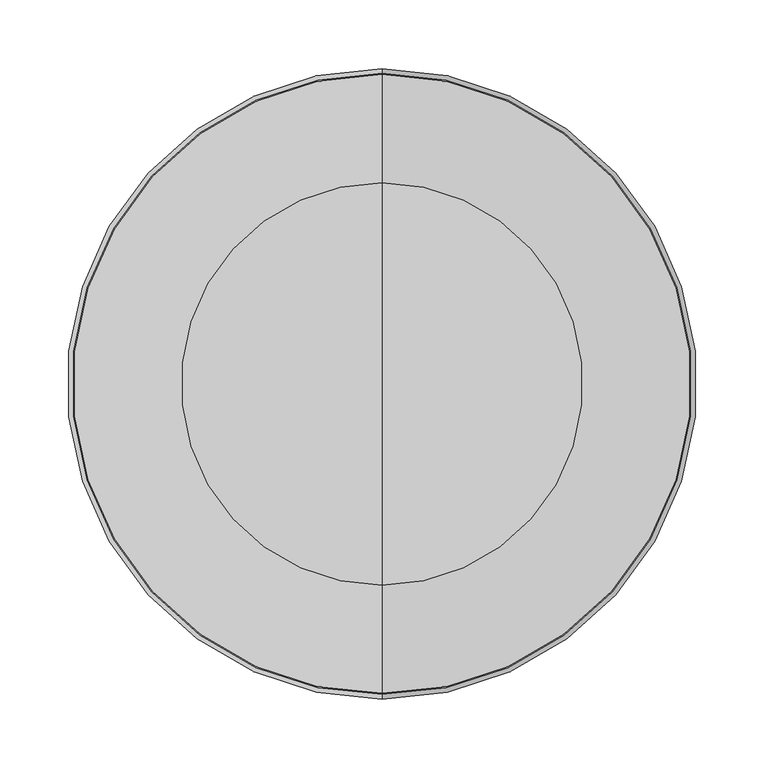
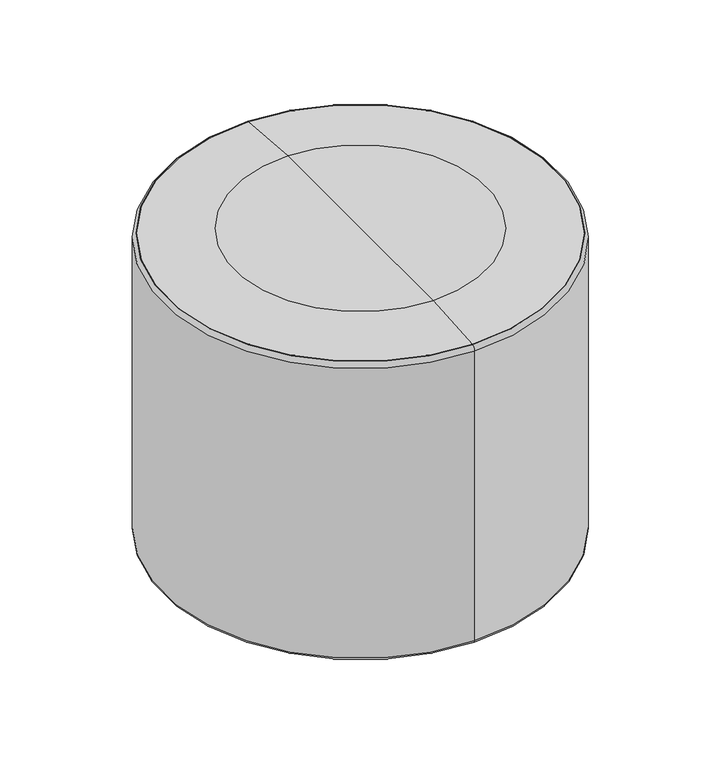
"""IFC4 building model written with IfcOpenShell, lengths in millimetres: furniture geometry, Indiana-Otty-Ottoman_Round : 840-1815RO."""

from ifc_helpers import new_model, si_unit, point, frame, origin, place, context, project, spatial, polyline, circle_curve, ellipse_curve, trimmed, source, transform, mapped, element, save
from ifc_brep_helpers import plane_surface, cylinder_surface, revolved_surface, advanced_brep


def furniture_a3c5e237(model_context):
    return source(origin(), model_context, "Body", "AdvancedBrep", [
        advanced_brep(
        [(126.4514457, -129.4834071, 19.8875), (126.4514457, -106.9834071, 19.8875), (126.4514457, -151.9834071, 19.8875), (126.4514457, -107.4318989, 4.2458827), (126.4514457, -151.5349153, 4.2458827), (126.4514457, -111.9170406, -0.1125), (126.4514457, -147.0497736, -0.1125), (126.4514457, -119.2157893, -0.1125), (126.4514457, -139.7510249, -0.1125), (126.4514457, -123.1102654, 3.9179615), (126.4514457, -135.8565488, 3.9179615), (126.4514457, -129.4834071, 3.9179615)],
        [
            (0, 1),
            (1, 2, circle_curve(frame((126.4514457, -129.4834071, 19.8875), z_axis=(0.0, 0.0, 1.0), x_axis=(0.0, 1.0, 0.0)), 22.5)),
            (2, 0),
            (2, 1, circle_curve(frame((126.4514457, -129.4834071, 19.8875), z_axis=(0.0, 0.0, 1.0), x_axis=(0.0, 1.0, 0.0)), 22.5)),
            (1, 3),
            (3, 4, circle_curve(frame((126.4514457, -129.4834071, 4.2458827), z_axis=(0.0, 0.0, 1.0), x_axis=(0.0, 1.0, 0.0)), 22.0515082)),
            (4, 2),
            (4, 3, circle_curve(frame((126.4514457, -129.4834071, 4.2458827), z_axis=(0.0, 0.0, 1.0), x_axis=(0.0, 1.0, 0.0)), 22.0515082)),
            (3, 5, circle_curve(frame((126.4514457, -111.9170406, 4.3744851), z_axis=(-1.0, 0.0, 0.0), x_axis=(0.0, -1.0, 0.0)), 4.4869851)),
            (5, 6, circle_curve(frame((126.4514457, -129.4834071, -0.1125), z_axis=(0.0, 0.0, 1.0), x_axis=(0.0, 1.0, 0.0)), 17.5663665)),
            (6, 4, circle_curve(frame((126.4514457, -147.0497736, 4.3744851), z_axis=(-1.0, 0.0, 0.0), x_axis=(0.0, 1.0, 0.0)), 4.4869851)),
            (6, 5, circle_curve(frame((126.4514457, -129.4834071, -0.1125), z_axis=(0.0, 0.0, 1.0), x_axis=(0.0, 1.0, 0.0)), 17.5663665)),
            (5, 7),
            (7, 8, circle_curve(frame((126.4514457, -129.4834071, -0.1125), z_axis=(0.0, 0.0, 1.0), x_axis=(0.0, 1.0, 0.0)), 10.2676178)),
            (8, 6),
            (8, 7, circle_curve(frame((126.4514457, -129.4834071, -0.1125), z_axis=(0.0, 0.0, 1.0), x_axis=(0.0, 1.0, 0.0)), 10.2676178)),
            (7, 9, circle_curve(frame((126.4514457, -119.2157893, 3.7842702), z_axis=(-1.0, 0.0, 0.0), x_axis=(0.0, -1.0, 0.0)), 3.8967702)),
            (9, 10, circle_curve(frame((126.4514457, -129.4834071, 3.9179615), z_axis=(0.0, 0.0, 1.0), x_axis=(0.0, 1.0, 0.0)), 6.3731417)),
            (10, 8, circle_curve(frame((126.4514457, -139.7510249, 3.7842702), z_axis=(-1.0, 0.0, 0.0), x_axis=(0.0, 1.0, 0.0)), 3.8967702)),
            (10, 9, circle_curve(frame((126.4514457, -129.4834071, 3.9179615), z_axis=(0.0, 0.0, 1.0), x_axis=(0.0, 1.0, 0.0)), 6.3731417)),
            (9, 11),
            (11, 10),
        ],
        [
            plane_surface(frame((126.4514457, -129.4834071, 19.8875), z_axis=(0.0, 0.0, 1.0), x_axis=(0.0, 1.0, 0.0))),
            revolved_surface(polyline([(126.4514457, -107.4318989, 4.2458827), (126.4514457, -106.9834071, 19.8875)]), (126.4514457, -129.4834071, 31.0803862), (0.0, 0.0, 1.0)),
            revolved_surface(trimmed(ellipse_curve(frame((126.4514457, -111.9170406, 4.3744851), z_axis=(1.0, 0.0, 0.0), x_axis=(0.0, -1.0, 0.0)), 4.4869851, 4.4869851), [point((126.4514457, -111.9170406, -0.1125))], [point((126.4514457, -107.4318989, 4.2458827))], True, "CARTESIAN"), (126.4514457, -129.4834071, 31.0803862), (0.0, 0.0, 1.0)),
            plane_surface(frame((126.4514457, -129.4834071, -0.1125), z_axis=(0.0, 0.0, -1.0), x_axis=(0.0, 1.0, 0.0))),
            revolved_surface(trimmed(ellipse_curve(frame((126.4514457, -119.2157893, 3.7842702), z_axis=(1.0, 0.0, 0.0), x_axis=(0.0, -1.0, 0.0)), 3.8967702, 3.8967702), [point((126.4514457, -123.1102654, 3.9179615))], [point((126.4514457, -119.2157893, -0.1125))], True, "CARTESIAN"), (126.4514457, -129.4834071, 31.0803862), (0.0, 0.0, 1.0)),
            plane_surface(frame((126.4514457, -129.4834071, 3.9179615), z_axis=(0.0, 0.0, -1.0), x_axis=(0.0, 1.0, 0.0))),
        ],
        [
            (0, [[1, 2, 3]]),
            (0, [[-3, 4, -1]]),
            (1, [[-2, 5, 6, 7]]),
            (1, [[-4, -7, 8, -5]]),
            (2, [[-6, 9, 10, 11]]),
            (2, [[-8, -11, 12, -9]]),
            (3, [[-10, 13, 14, 15]]),
            (3, [[-12, -15, 16, -13]]),
            (4, [[-14, 17, 18, 19]]),
            (4, [[-16, -19, 20, -17]]),
            (5, [[-18, 21, 22]]),
            (5, [[-20, -22, -21]]),
        ],
    ),
        advanced_brep(
        [(-129.4834071, -126.4514457, 19.8875), (-106.9834071, -126.4514457, 19.8875), (-151.9834071, -126.4514457, 19.8875), (-107.4318989, -126.4514457, 4.2458827), (-151.5349153, -126.4514457, 4.2458827), (-111.9170406, -126.4514457, -0.1125), (-147.0497736, -126.4514457, -0.1125), (-119.2157893, -126.4514457, -0.1125), (-139.7510249, -126.4514457, -0.1125), (-123.1102654, -126.4514457, 3.9179615), (-135.8565488, -126.4514457, 3.9179615), (-129.4834071, -126.4514457, 3.9179615)],
        [
            (0, 1),
            (1, 2, circle_curve(frame((-129.4834071, -126.4514457, 19.8875), z_axis=(0.0, 0.0, 1.0), x_axis=(1.0, 0.0, 0.0)), 22.5)),
            (2, 0),
            (2, 1, circle_curve(frame((-129.4834071, -126.4514457, 19.8875), z_axis=(0.0, 0.0, 1.0), x_axis=(1.0, 0.0, 0.0)), 22.5)),
            (1, 3),
            (3, 4, circle_curve(frame((-129.4834071, -126.4514457, 4.2458827), z_axis=(0.0, 0.0, 1.0), x_axis=(1.0, 0.0, 0.0)), 22.0515082)),
            (4, 2),
            (4, 3, circle_curve(frame((-129.4834071, -126.4514457, 4.2458827), z_axis=(0.0, 0.0, 1.0), x_axis=(1.0, 0.0, 0.0)), 22.0515082)),
            (3, 5, circle_curve(frame((-111.9170406, -126.4514457, 4.3744851), z_axis=(0.0, 1.0, 0.0), x_axis=(-1.0, 0.0, 0.0)), 4.4869851)),
            (5, 6, circle_curve(frame((-129.4834071, -126.4514457, -0.1125), z_axis=(0.0, 0.0, 1.0), x_axis=(1.0, 0.0, 0.0)), 17.5663665)),
            (6, 4, circle_curve(frame((-147.0497736, -126.4514457, 4.3744851), z_axis=(0.0, 1.0, 0.0), x_axis=(1.0, 0.0, 0.0)), 4.4869851)),
            (6, 5, circle_curve(frame((-129.4834071, -126.4514457, -0.1125), z_axis=(0.0, 0.0, 1.0), x_axis=(1.0, 0.0, 0.0)), 17.5663665)),
            (5, 7),
            (7, 8, circle_curve(frame((-129.4834071, -126.4514457, -0.1125), z_axis=(0.0, 0.0, 1.0), x_axis=(1.0, 0.0, 0.0)), 10.2676178)),
            (8, 6),
            (8, 7, circle_curve(frame((-129.4834071, -126.4514457, -0.1125), z_axis=(0.0, 0.0, 1.0), x_axis=(1.0, 0.0, 0.0)), 10.2676178)),
            (7, 9, circle_curve(frame((-119.2157893, -126.4514457, 3.7842702), z_axis=(0.0, 1.0, 0.0), x_axis=(-1.0, 0.0, 0.0)), 3.8967702)),
            (9, 10, circle_curve(frame((-129.4834071, -126.4514457, 3.9179615), z_axis=(0.0, 0.0, 1.0), x_axis=(1.0, 0.0, 0.0)), 6.3731417)),
            (10, 8, circle_curve(frame((-139.7510249, -126.4514457, 3.7842702), z_axis=(0.0, 1.0, 0.0), x_axis=(1.0, 0.0, 0.0)), 3.8967702)),
            (10, 9, circle_curve(frame((-129.4834071, -126.4514457, 3.9179615), z_axis=(0.0, 0.0, 1.0), x_axis=(1.0, 0.0, 0.0)), 6.3731417)),
            (9, 11),
            (11, 10),
        ],
        [
            plane_surface(frame((-129.4834071, -126.4514457, 19.8875), z_axis=(0.0, 0.0, 1.0), x_axis=(1.0, 0.0, 0.0))),
            revolved_surface(polyline([(-107.4318989, -126.4514457, 4.2458827), (-106.9834071, -126.4514457, 19.8875)]), (-129.4834071, -126.4514457, 31.0803862), (0.0, 0.0, 1.0)),
            revolved_surface(trimmed(ellipse_curve(frame((-111.9170406, -126.4514457, 4.3744851), z_axis=(0.0, -1.0, 0.0), x_axis=(-1.0, 0.0, 0.0)), 4.4869851, 4.4869851), [point((-111.9170406, -126.4514457, -0.1125))], [point((-107.4318989, -126.4514457, 4.2458827))], True, "CARTESIAN"), (-129.4834071, -126.4514457, 31.0803862), (0.0, 0.0, 1.0)),
            plane_surface(frame((-129.4834071, -126.4514457, -0.1125), z_axis=(0.0, 0.0, -1.0), x_axis=(1.0, 0.0, 0.0))),
            revolved_surface(trimmed(ellipse_curve(frame((-119.2157893, -126.4514457, 3.7842702), z_axis=(0.0, -1.0, 0.0), x_axis=(-1.0, 0.0, 0.0)), 3.8967702, 3.8967702), [point((-123.1102654, -126.4514457, 3.9179615))], [point((-119.2157893, -126.4514457, -0.1125))], True, "CARTESIAN"), (-129.4834071, -126.4514457, 31.0803862), (0.0, 0.0, 1.0)),
            plane_surface(frame((-129.4834071, -126.4514457, 3.9179615), z_axis=(0.0, 0.0, -1.0), x_axis=(1.0, 0.0, 0.0))),
        ],
        [
            (0, [[1, 2, 3]]),
            (0, [[-3, 4, -1]]),
            (1, [[-2, 5, 6, 7]]),
            (1, [[-4, -7, 8, -5]]),
            (2, [[-6, 9, 10, 11]]),
            (2, [[-8, -11, 12, -9]]),
            (3, [[-10, 13, 14, 15]]),
            (3, [[-12, -15, 16, -13]]),
            (4, [[-14, 17, 18, 19]]),
            (4, [[-16, -19, 20, -17]]),
            (5, [[-18, 21, 22]]),
            (5, [[-20, -22, -21]]),
        ],
    ),
        advanced_brep(
        [(129.4834071, 126.4514457, 19.8875), (106.9834071, 126.4514457, 19.8875), (151.9834071, 126.4514457, 19.8875), (107.4318989, 126.4514457, 4.2458827), (151.5349153, 126.4514457, 4.2458827), (111.9170406, 126.4514457, -0.1125), (147.0497736, 126.4514457, -0.1125), (119.2157893, 126.4514457, -0.1125), (139.7510249, 126.4514457, -0.1125), (123.1102654, 126.4514457, 3.9179615), (135.8565488, 126.4514457, 3.9179615), (129.4834071, 126.4514457, 3.9179615)],
        [
            (0, 1),
            (1, 2, circle_curve(frame((129.4834071, 126.4514457, 19.8875), z_axis=(0.0, 0.0, 1.0), x_axis=(-1.0, 0.0, 0.0)), 22.5)),
            (2, 0),
            (2, 1, circle_curve(frame((129.4834071, 126.4514457, 19.8875), z_axis=(0.0, 0.0, 1.0), x_axis=(-1.0, 0.0, 0.0)), 22.5)),
            (1, 3),
            (3, 4, circle_curve(frame((129.4834071, 126.4514457, 4.2458827), z_axis=(0.0, 0.0, 1.0), x_axis=(-1.0, 0.0, 0.0)), 22.0515082)),
            (4, 2),
            (4, 3, circle_curve(frame((129.4834071, 126.4514457, 4.2458827), z_axis=(0.0, 0.0, 1.0), x_axis=(-1.0, 0.0, 0.0)), 22.0515082)),
            (3, 5, circle_curve(frame((111.9170406, 126.4514457, 4.3744851), z_axis=(0.0, -1.0, 0.0), x_axis=(1.0, 0.0, 0.0)), 4.4869851)),
            (5, 6, circle_curve(frame((129.4834071, 126.4514457, -0.1125), z_axis=(0.0, 0.0, 1.0), x_axis=(-1.0, 0.0, 0.0)), 17.5663665)),
            (6, 4, circle_curve(frame((147.0497736, 126.4514457, 4.3744851), z_axis=(0.0, -1.0, 0.0), x_axis=(-1.0, 0.0, 0.0)), 4.4869851)),
            (6, 5, circle_curve(frame((129.4834071, 126.4514457, -0.1125), z_axis=(0.0, 0.0, 1.0), x_axis=(-1.0, 0.0, 0.0)), 17.5663665)),
            (5, 7),
            (7, 8, circle_curve(frame((129.4834071, 126.4514457, -0.1125), z_axis=(0.0, 0.0, 1.0), x_axis=(-1.0, 0.0, 0.0)), 10.2676178)),
            (8, 6),
            (8, 7, circle_curve(frame((129.4834071, 126.4514457, -0.1125), z_axis=(0.0, 0.0, 1.0), x_axis=(-1.0, 0.0, 0.0)), 10.2676178)),
            (7, 9, circle_curve(frame((119.2157893, 126.4514457, 3.7842702), z_axis=(0.0, -1.0, 0.0), x_axis=(1.0, 0.0, 0.0)), 3.8967702)),
            (9, 10, circle_curve(frame((129.4834071, 126.4514457, 3.9179615), z_axis=(0.0, 0.0, 1.0), x_axis=(-1.0, 0.0, 0.0)), 6.3731417)),
            (10, 8, circle_curve(frame((139.7510249, 126.4514457, 3.7842702), z_axis=(0.0, -1.0, 0.0), x_axis=(-1.0, 0.0, 0.0)), 3.8967702)),
            (10, 9, circle_curve(frame((129.4834071, 126.4514457, 3.9179615), z_axis=(0.0, 0.0, 1.0), x_axis=(-1.0, 0.0, 0.0)), 6.3731417)),
            (9, 11),
            (11, 10),
        ],
        [
            plane_surface(frame((129.4834071, 126.4514457, 19.8875), z_axis=(0.0, 0.0, 1.0), x_axis=(-1.0, 0.0, 0.0))),
            revolved_surface(polyline([(107.4318989, 126.4514457, 4.2458827), (106.9834071, 126.4514457, 19.8875)]), (129.4834071, 126.4514457, 31.0803862), (0.0, 0.0, 1.0)),
            revolved_surface(trimmed(ellipse_curve(frame((111.9170406, 126.4514457, 4.3744851), z_axis=(0.0, 1.0, 0.0), x_axis=(1.0, 0.0, 0.0)), 4.4869851, 4.4869851), [point((111.9170406, 126.4514457, -0.1125))], [point((107.4318989, 126.4514457, 4.2458827))], True, "CARTESIAN"), (129.4834071, 126.4514457, 31.0803862), (0.0, 0.0, 1.0)),
            plane_surface(frame((129.4834071, 126.4514457, -0.1125), z_axis=(0.0, 0.0, -1.0), x_axis=(-1.0, 0.0, 0.0))),
            revolved_surface(trimmed(ellipse_curve(frame((119.2157893, 126.4514457, 3.7842702), z_axis=(0.0, 1.0, 0.0), x_axis=(1.0, 0.0, 0.0)), 3.8967702, 3.8967702), [point((123.1102654, 126.4514457, 3.9179615))], [point((119.2157893, 126.4514457, -0.1125))], True, "CARTESIAN"), (129.4834071, 126.4514457, 31.0803862), (0.0, 0.0, 1.0)),
            plane_surface(frame((129.4834071, 126.4514457, 3.9179615), z_axis=(0.0, 0.0, -1.0), x_axis=(-1.0, 0.0, 0.0))),
        ],
        [
            (0, [[1, 2, 3]]),
            (0, [[-3, 4, -1]]),
            (1, [[-2, 5, 6, 7]]),
            (1, [[-4, -7, 8, -5]]),
            (2, [[-6, 9, 10, 11]]),
            (2, [[-8, -11, 12, -9]]),
            (3, [[-10, 13, 14, 15]]),
            (3, [[-12, -15, 16, -13]]),
            (4, [[-14, 17, 18, 19]]),
            (4, [[-16, -19, 20, -17]]),
            (5, [[-18, 21, 22]]),
            (5, [[-20, -22, -21]]),
        ],
    ),
        advanced_brep(
        [(-126.4514457, 129.4834071, 19.8875), (-126.4514457, 106.9834071, 19.8875), (-126.4514457, 151.9834071, 19.8875), (-126.4514457, 107.4318989, 4.2458827), (-126.4514457, 151.5349153, 4.2458827), (-126.4514457, 111.9170406, -0.1125), (-126.4514457, 147.0497736, -0.1125), (-126.4514457, 119.2157893, -0.1125), (-126.4514457, 139.7510249, -0.1125), (-126.4514457, 123.1102654, 3.9179615), (-126.4514457, 135.8565488, 3.9179615), (-126.4514457, 129.4834071, 3.9179615)],
        [
            (0, 1),
            (1, 2, circle_curve(frame((-126.4514457, 129.4834071, 19.8875), z_axis=(0.0, 0.0, 1.0), x_axis=(0.0, -1.0, 0.0)), 22.5)),
            (2, 0),
            (2, 1, circle_curve(frame((-126.4514457, 129.4834071, 19.8875), z_axis=(0.0, 0.0, 1.0), x_axis=(0.0, -1.0, 0.0)), 22.5)),
            (1, 3),
            (3, 4, circle_curve(frame((-126.4514457, 129.4834071, 4.2458827), z_axis=(0.0, 0.0, 1.0), x_axis=(0.0, -1.0, 0.0)), 22.0515082)),
            (4, 2),
            (4, 3, circle_curve(frame((-126.4514457, 129.4834071, 4.2458827), z_axis=(0.0, 0.0, 1.0), x_axis=(0.0, -1.0, 0.0)), 22.0515082)),
            (3, 5, circle_curve(frame((-126.4514457, 111.9170406, 4.3744851), z_axis=(1.0, 0.0, 0.0), x_axis=(0.0, 1.0, 0.0)), 4.4869851)),
            (5, 6, circle_curve(frame((-126.4514457, 129.4834071, -0.1125), z_axis=(0.0, 0.0, 1.0), x_axis=(0.0, -1.0, 0.0)), 17.5663665)),
            (6, 4, circle_curve(frame((-126.4514457, 147.0497736, 4.3744851), z_axis=(1.0, 0.0, 0.0), x_axis=(0.0, -1.0, 0.0)), 4.4869851)),
            (6, 5, circle_curve(frame((-126.4514457, 129.4834071, -0.1125), z_axis=(0.0, 0.0, 1.0), x_axis=(0.0, -1.0, 0.0)), 17.5663665)),
            (5, 7),
            (7, 8, circle_curve(frame((-126.4514457, 129.4834071, -0.1125), z_axis=(0.0, 0.0, 1.0), x_axis=(0.0, -1.0, 0.0)), 10.2676178)),
            (8, 6),
            (8, 7, circle_curve(frame((-126.4514457, 129.4834071, -0.1125), z_axis=(0.0, 0.0, 1.0), x_axis=(0.0, -1.0, 0.0)), 10.2676178)),
            (7, 9, circle_curve(frame((-126.4514457, 119.2157893, 3.7842702), z_axis=(1.0, 0.0, 0.0), x_axis=(0.0, 1.0, 0.0)), 3.8967702)),
            (9, 10, circle_curve(frame((-126.4514457, 129.4834071, 3.9179615), z_axis=(0.0, 0.0, 1.0), x_axis=(0.0, -1.0, 0.0)), 6.3731417)),
            (10, 8, circle_curve(frame((-126.4514457, 139.7510249, 3.7842702), z_axis=(1.0, 0.0, 0.0), x_axis=(0.0, -1.0, 0.0)), 3.8967702)),
            (10, 9, circle_curve(frame((-126.4514457, 129.4834071, 3.9179615), z_axis=(0.0, 0.0, 1.0), x_axis=(0.0, -1.0, 0.0)), 6.3731417)),
            (9, 11),
            (11, 10),
        ],
        [
            plane_surface(frame((-126.4514457, 129.4834071, 19.8875), z_axis=(0.0, 0.0, 1.0), x_axis=(0.0, -1.0, 0.0))),
            revolved_surface(polyline([(-126.4514457, 107.4318989, 4.2458827), (-126.4514457, 106.9834071, 19.8875)]), (-126.4514457, 129.4834071, 31.0803862), (0.0, 0.0, 1.0)),
            revolved_surface(trimmed(ellipse_curve(frame((-126.4514457, 111.9170406, 4.3744851), z_axis=(-1.0, 0.0, 0.0), x_axis=(0.0, 1.0, 0.0)), 4.4869851, 4.4869851), [point((-126.4514457, 111.9170406, -0.1125))], [point((-126.4514457, 107.4318989, 4.2458827))], True, "CARTESIAN"), (-126.4514457, 129.4834071, 31.0803862), (0.0, 0.0, 1.0)),
            plane_surface(frame((-126.4514457, 129.4834071, -0.1125), z_axis=(0.0, 0.0, -1.0), x_axis=(0.0, -1.0, 0.0))),
            revolved_surface(trimmed(ellipse_curve(frame((-126.4514457, 119.2157893, 3.7842702), z_axis=(-1.0, 0.0, 0.0), x_axis=(0.0, 1.0, 0.0)), 3.8967702, 3.8967702), [point((-126.4514457, 123.1102654, 3.9179615))], [point((-126.4514457, 119.2157893, -0.1125))], True, "CARTESIAN"), (-126.4514457, 129.4834071, 31.0803862), (0.0, 0.0, 1.0)),
            plane_surface(frame((-126.4514457, 129.4834071, 3.9179615), z_axis=(0.0, 0.0, -1.0), x_axis=(0.0, -1.0, 0.0))),
        ],
        [
            (0, [[1, 2, 3]]),
            (0, [[-3, 4, -1]]),
            (1, [[-2, 5, 6, 7]]),
            (1, [[-4, -7, 8, -5]]),
            (2, [[-6, 9, 10, 11]]),
            (2, [[-8, -11, 12, -9]]),
            (3, [[-10, 13, 14, 15]]),
            (3, [[-12, -15, 16, -13]]),
            (4, [[-14, 17, 18, 19]]),
            (4, [[-16, -19, 20, -17]]),
            (5, [[-18, 21, 22]]),
            (5, [[-20, -22, -21]]),
        ],
    ),
        advanced_brep(
        [(0.0, 228.6, 14.675), (0.0, 225.425, 11.5), (0.0, -225.425, 11.5), (0.0, -228.6, 14.675), (0.0, 228.6, 369.0), (0.0, -228.6, 369.0), (0.0, 225.3317905, 375.2073863), (0.0, -225.3317905, 375.2073863), (0.0, 224.6, 374.9999966), (0.0, -224.6, 374.9999966), (0.0, 146.05, 381.0), (0.0, -146.05, 381.0), (0.0, 0.0, 381.0), (0.0, 0.0, 11.5), (-129.4834071, -149.4701957, 11.5), (-129.4834071, -103.4326957, 11.5), (-149.4701957, 129.4834071, 11.5), (-103.4326957, 129.4834071, 11.5), (149.4701957, -129.4834071, 11.5), (103.4326957, -129.4834071, 11.5), (129.4834071, 149.4701957, 11.5), (129.4834071, 103.4326957, 11.5), (-129.4834071, -103.4326957, 19.834375), (-129.4834071, -149.4701957, 19.834375), (103.4326957, -129.4834071, 19.834375), (149.4701957, -129.4834071, 19.834375), (129.4834071, 103.4326957, 19.834375), (129.4834071, 149.4701957, 19.834375), (-103.4326957, 129.4834071, 19.834375), (-149.4701957, 129.4834071, 19.834375)],
        [
            (0, 1, circle_curve(frame((0.0, 225.425, 14.675), z_axis=(-1.0, 0.0, 0.0), x_axis=(0.0, 1.0, 0.0)), 3.175)),
            (1, 2, circle_curve(frame((0.0, 0.0, 11.5), z_axis=(0.0, 0.0, 1.0), x_axis=(0.0, 1.0, 0.0)), 225.425)),
            (2, 3, circle_curve(frame((0.0, -225.425, 14.675), z_axis=(-1.0, 0.0, 0.0), x_axis=(0.0, -1.0, 0.0)), 3.175)),
            (3, 0, circle_curve(frame((0.0, 0.0, 14.675), z_axis=(0.0, 0.0, -1.0), x_axis=(0.0, 1.0, 0.0)), 228.6)),
            (0, 3, circle_curve(frame((0.0, 0.0, 14.675), z_axis=(0.0, 0.0, -1.0), x_axis=(0.0, 1.0, 0.0)), 228.6)),
            (2, 1, circle_curve(frame((0.0, 0.0, 11.5), z_axis=(0.0, 0.0, 1.0), x_axis=(0.0, 1.0, 0.0)), 225.425)),
            (4, 0),
            (3, 5),
            (5, 4, circle_curve(frame((0.0, 0.0, 369.0), z_axis=(0.0, 0.0, -1.0), x_axis=(0.0, 1.0, 0.0)), 228.6)),
            (4, 5, circle_curve(frame((0.0, 0.0, 369.0), z_axis=(0.0, 0.0, -1.0), x_axis=(0.0, 1.0, 0.0)), 228.6)),
            (6, 4, circle_curve(frame((0.0, 221.0709786, 369.0), z_axis=(-1.0, 0.0, 0.0), x_axis=(0.0, 1.0, 0.0)), 7.5290214)),
            (5, 7, circle_curve(frame((0.0, -221.0709786, 369.0), z_axis=(-1.0, 0.0, 0.0), x_axis=(0.0, -1.0, 0.0)), 7.5290214)),
            (7, 6, circle_curve(frame((0.0, 0.0, 375.2073863), z_axis=(0.0, 0.0, -1.0), x_axis=(0.0, 1.0, 0.0)), 225.3317905)),
            (6, 7, circle_curve(frame((0.0, 0.0, 375.2073863), z_axis=(0.0, 0.0, -1.0), x_axis=(0.0, 1.0, 0.0)), 225.3317905)),
            (8, 6, circle_curve(frame((0.0, 225.0520185, 374.799799), z_axis=(-1.0, 0.0, 0.0), x_axis=(0.0, 1.0, 0.0)), 0.4943681)),
            (7, 9, circle_curve(frame((0.0, -225.0520185, 374.799799), z_axis=(-1.0, 0.0, 0.0), x_axis=(0.0, -1.0, 0.0)), 0.4943681)),
            (9, 8, circle_curve(frame((0.0, 0.0, 374.9999966), z_axis=(0.0, 0.0, -1.0), x_axis=(0.0, 1.0, 0.0)), 224.6)),
            (8, 9, circle_curve(frame((0.0, 0.0, 374.9999966), z_axis=(0.0, 0.0, -1.0), x_axis=(0.0, 1.0, 0.0)), 224.6)),
            (10, 8, circle_curve(frame((0.0, 146.05, -136.1749222), z_axis=(-1.0, 0.0, 0.0), x_axis=(0.0, 1.0, 0.0)), 517.1749222)),
            (9, 11, circle_curve(frame((0.0, -146.05, -136.1749222), z_axis=(-1.0, 0.0, 0.0), x_axis=(0.0, -1.0, 0.0)), 517.1749222)),
            (11, 10, circle_curve(frame((0.0, 0.0, 381.0), z_axis=(0.0, 0.0, -1.0), x_axis=(0.0, 1.0, 0.0)), 146.05)),
            (10, 11, circle_curve(frame((0.0, 0.0, 381.0), z_axis=(0.0, 0.0, -1.0), x_axis=(0.0, 1.0, 0.0)), 146.05)),
            (12, 10),
            (11, 12),
            (1, 13),
            (13, 2),
            (14, 15, circle_curve(frame((-129.4834071, -126.4514457, 11.5), z_axis=(0.0, 0.0, 1.0), x_axis=(0.0, -1.0, 0.0)), 23.01875)),
            (15, 14, circle_curve(frame((-129.4834071, -126.4514457, 11.5), z_axis=(0.0, 0.0, 1.0), x_axis=(0.0, -1.0, 0.0)), 23.01875)),
            (16, 17, circle_curve(frame((-126.4514457, 129.4834071, 11.5), z_axis=(0.0, 0.0, 1.0), x_axis=(-1.0, 0.0, 0.0)), 23.01875)),
            (17, 16, circle_curve(frame((-126.4514457, 129.4834071, 11.5), z_axis=(0.0, 0.0, 1.0), x_axis=(-1.0, 0.0, 0.0)), 23.01875)),
            (18, 19, circle_curve(frame((126.4514457, -129.4834071, 11.5), z_axis=(0.0, 0.0, 1.0), x_axis=(1.0, 0.0, 0.0)), 23.01875)),
            (19, 18, circle_curve(frame((126.4514457, -129.4834071, 11.5), z_axis=(0.0, 0.0, 1.0), x_axis=(1.0, 0.0, 0.0)), 23.01875)),
            (20, 21, circle_curve(frame((129.4834071, 126.4514457, 11.5), z_axis=(0.0, 0.0, 1.0), x_axis=(0.0, 1.0, 0.0)), 23.01875)),
            (21, 20, circle_curve(frame((129.4834071, 126.4514457, 11.5), z_axis=(0.0, 0.0, 1.0), x_axis=(0.0, 1.0, 0.0)), 23.01875)),
            (22, 23, circle_curve(frame((-129.4834071, -126.4514457, 19.834375), z_axis=(0.0, 0.0, -1.0), x_axis=(0.0, -1.0, 0.0)), 23.01875)),
            (23, 22, circle_curve(frame((-129.4834071, -126.4514457, 19.834375), z_axis=(0.0, 0.0, -1.0), x_axis=(0.0, -1.0, 0.0)), 23.01875)),
            (22, 15),
            (14, 23),
            (24, 25, circle_curve(frame((126.4514457, -129.4834071, 19.834375), z_axis=(0.0, 0.0, -1.0), x_axis=(1.0, 0.0, 0.0)), 23.01875)),
            (25, 24, circle_curve(frame((126.4514457, -129.4834071, 19.834375), z_axis=(0.0, 0.0, -1.0), x_axis=(1.0, 0.0, 0.0)), 23.01875)),
            (24, 19),
            (18, 25),
            (26, 27, circle_curve(frame((129.4834071, 126.4514457, 19.834375), z_axis=(0.0, 0.0, -1.0), x_axis=(0.0, 1.0, 0.0)), 23.01875)),
            (27, 26, circle_curve(frame((129.4834071, 126.4514457, 19.834375), z_axis=(0.0, 0.0, -1.0), x_axis=(0.0, 1.0, 0.0)), 23.01875)),
            (26, 21),
            (20, 27),
            (28, 29, circle_curve(frame((-126.4514457, 129.4834071, 19.834375), z_axis=(0.0, 0.0, -1.0), x_axis=(-1.0, 0.0, 0.0)), 23.01875)),
            (29, 28, circle_curve(frame((-126.4514457, 129.4834071, 19.834375), z_axis=(0.0, 0.0, -1.0), x_axis=(-1.0, 0.0, 0.0)), 23.01875)),
            (28, 17),
            (16, 29),
        ],
        [
            revolved_surface(trimmed(ellipse_curve(frame((0.0, 225.425, 14.675), z_axis=(1.0, 0.0, 0.0), x_axis=(0.0, 1.0, 0.0)), 3.175, 3.175), [point((0.0, 225.425, 11.5))], [point((0.0, 228.6, 14.675))], True, "CARTESIAN"), (0.0, 0.0, 635.0), (0.0, 0.0, 1.0)),
            cylinder_surface(frame((0.0, 0.0, 635.0), z_axis=(0.0, 0.0, 1.0), x_axis=(0.0, 1.0, 0.0)), 228.6),
            revolved_surface(trimmed(ellipse_curve(frame((0.0, 221.0709786, 369.0), z_axis=(1.0, 0.0, 0.0), x_axis=(0.0, 1.0, 0.0)), 7.5290214, 7.5290214), [point((0.0, 228.6, 369.0))], [point((0.0, 225.3317905, 375.2073863))], True, "CARTESIAN"), (0.0, 0.0, 635.0), (0.0, 0.0, 1.0)),
            revolved_surface(trimmed(ellipse_curve(frame((0.0, 225.0520185, 374.799799), z_axis=(1.0, 0.0, 0.0), x_axis=(0.0, 1.0, 0.0)), 0.4943681, 0.4943681), [point((0.0, 225.3317905, 375.2073863))], [point((0.0, 224.6, 374.9999966))], True, "CARTESIAN"), (0.0, 0.0, 635.0), (0.0, 0.0, 1.0)),
            revolved_surface(trimmed(ellipse_curve(frame((0.0, 146.05, -136.1749222), z_axis=(1.0, 0.0, 0.0), x_axis=(0.0, 1.0, 0.0)), 517.1749222, 517.1749222), [point((0.0, 224.6, 374.9999966))], [point((0.0, 146.05, 381.0))], True, "CARTESIAN"), (0.0, 0.0, 635.0), (0.0, 0.0, 1.0)),
            plane_surface(frame((0.0, 0.0, 381.0), z_axis=(0.0, 0.0, 1.0), x_axis=(0.0, 1.0, 0.0))),
            plane_surface(frame((0.0, 0.0, 11.5), z_axis=(0.0, 0.0, -1.0), x_axis=(0.0, 1.0, 0.0))),
            plane_surface(frame((-129.4834071, -149.4701957, 19.834375), z_axis=(0.0, 0.0, -1.0), x_axis=(1.0, 0.0, 0.0))),
            revolved_surface(polyline([(-129.4834071, -149.4701957, 11.5), (-129.4834071, -149.4701957, 19.834375)]), (-129.4834071, -126.4514457, 19.834375), (0.0, 0.0, -1.0)),
            plane_surface(frame((149.4701957, -129.4834071, 19.834375), z_axis=(0.0, 0.0, -1.0), x_axis=(0.0, 1.0, 0.0))),
            revolved_surface(polyline([(149.4701957, -129.4834071, 11.5), (149.4701957, -129.4834071, 19.834375)]), (126.4514457, -129.4834071, 19.834375), (0.0, 0.0, -1.0)),
            plane_surface(frame((129.4834071, 149.4701957, 19.834375), z_axis=(0.0, 0.0, -1.0), x_axis=(-1.0, 0.0, 0.0))),
            revolved_surface(polyline([(129.4834071, 149.4701957, 11.5), (129.4834071, 149.4701957, 19.834375)]), (129.4834071, 126.4514457, 19.834375), (0.0, 0.0, -1.0)),
            plane_surface(frame((-149.4701957, 129.4834071, 19.834375), z_axis=(0.0, 0.0, -1.0), x_axis=(0.0, -1.0, 0.0))),
            revolved_surface(polyline([(-149.4701957, 129.4834071, 11.5), (-149.4701957, 129.4834071, 19.834375)]), (-126.4514457, 129.4834071, 19.834375), (0.0, 0.0, -1.0)),
        ],
        [
            (0, [[1, 2, 3, 4]]),
            (0, [[-1, 5, -3, 6]]),
            (1, [[7, -4, 8, 9]]),
            (1, [[-7, 10, -8, -5]]),
            (2, [[11, -9, 12, 13]]),
            (2, [[-11, 14, -12, -10]]),
            (3, [[15, -13, 16, 17]]),
            (3, [[-15, 18, -16, -14]]),
            (4, [[19, -17, 20, 21]]),
            (4, [[-19, 22, -20, -18]]),
            (5, [[23, -21, 24]]),
            (5, [[-23, -24, -22]]),
            (6, [[25, 26, -2], [27, 28], [29, 30]]),
            (6, [[-25, -6, -26], [31, 32], [33, 34]]),
            (7, [[35, 36]]),
            (8, [[-35, 37, -27, 38]]),
            (8, [[-36, -38, -28, -37]]),
            (9, [[39, 40]]),
            (10, [[-39, 41, -31, 42]]),
            (10, [[-40, -42, -32, -41]]),
            (11, [[43, 44]]),
            (12, [[-43, 45, -33, 46]]),
            (12, [[-44, -46, -34, -45]]),
            (13, [[47, 48]]),
            (14, [[-47, 49, -29, 50]]),
            (14, [[-48, -50, -30, -49]]),
        ],
    ),
    ])


if __name__ == "__main__":
    model = new_model("IFC4")
    model_context = context("Model", 3, world=origin())
    ifc_project = project(units=[si_unit("LENGTHUNIT", "METRE", prefix="MILLI")], contexts=[model_context])
    site = spatial("IfcSite", under=ifc_project)
    building = spatial("IfcBuilding", under=site)
    placement = place(None, origin())
    furniture_shape = furniture_a3c5e237(model_context)
    element("IfcFurniture", 1, ObjectType="Indiana-Otty-Ottoman_Round : 840-1815RO", at=placement, inside=building, context=model_context, shape_type="MappedRepresentation", body=[
        mapped(furniture_shape, transform((0.0, 0.0, 0.0), x_axis=(1.0, 0.0, 0.0), y_axis=(0.0, 1.0, 0.0), z_axis=(0.0, 0.0, 1.0))),
    ])
    save(model, "model.ifc")
